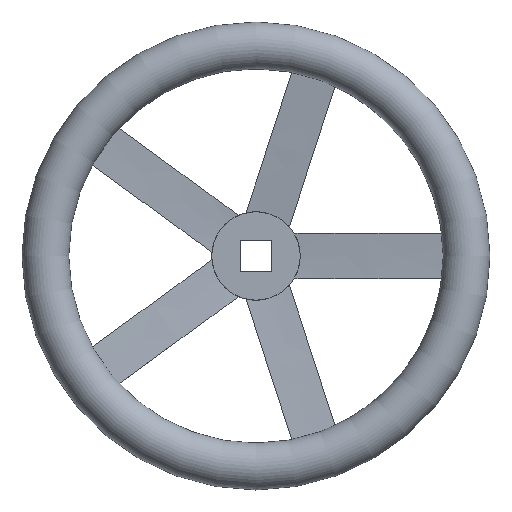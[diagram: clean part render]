
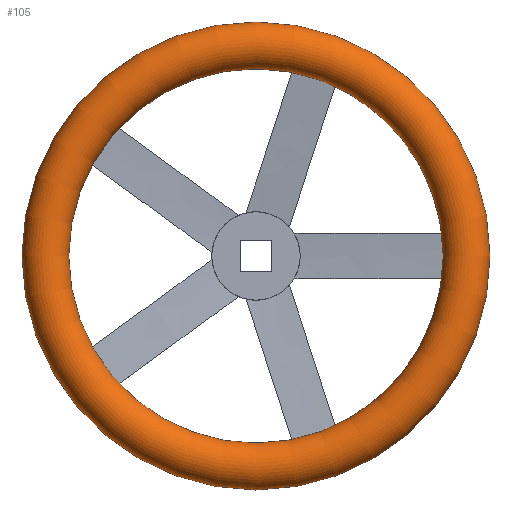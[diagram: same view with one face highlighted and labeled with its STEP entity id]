
A CAD part, top view. The second image highlights one B-rep face of the part: STEP entity #105.
In plain terms, the highlighted toroidal (fillet/blend) face has major radius 162 mm and minor radius 18 mm.
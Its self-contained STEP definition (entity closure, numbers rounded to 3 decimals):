
#105 = ADVANCED_FACE( '', ( #182, #183 ), #184, .T. );
#182 = FACE_OUTER_BOUND( '', #268, .T. );
#183 = FACE_OUTER_BOUND( '', #269, .T. );
#184 = TOROIDAL_SURFACE( '', #270, 162., 18. );
#268 = EDGE_LOOP( '', ( #535 ) );
#269 = EDGE_LOOP( '', ( #536 ) );
#270 = AXIS2_PLACEMENT_3D( '', #537, #538, #539 );
#535 = ORIENTED_EDGE( '', *, *, #642, .T. );
#536 = ORIENTED_EDGE( '', *, *, #641, .F. );
#537 = CARTESIAN_POINT( '', ( 0., 0., 40. ) );
#538 = DIRECTION( '', ( 0., 0., 1. ) );
#539 = DIRECTION( '', ( 1., 0., 0. ) );
#641 = EDGE_CURVE( '', #779, #779, #780, .T. );
#642 = EDGE_CURVE( '', #781, #781, #782, .T. );
#779 = VERTEX_POINT( '', #1134 );
#780 = CIRCLE( '', #1135, 144. );
#781 = VERTEX_POINT( '', #1136 );
#782 = CIRCLE( '', #1137, 180. );
#1134 = CARTESIAN_POINT( '', ( 144., 0., 40. ) );
#1135 = AXIS2_PLACEMENT_3D( '', #1263, #1264, #1265 );
#1136 = CARTESIAN_POINT( '', ( 180., 0., 40. ) );
#1137 = AXIS2_PLACEMENT_3D( '', #1266, #1267, #1268 );
#1263 = CARTESIAN_POINT( '', ( 0., 0., 40. ) );
#1264 = DIRECTION( '', ( 0., 0., 1. ) );
#1265 = DIRECTION( '', ( 1., 0., 0. ) );
#1266 = CARTESIAN_POINT( '', ( 0., 0., 40. ) );
#1267 = DIRECTION( '', ( 0., 0., 1. ) );
#1268 = DIRECTION( '', ( 1., 0., 0. ) );
